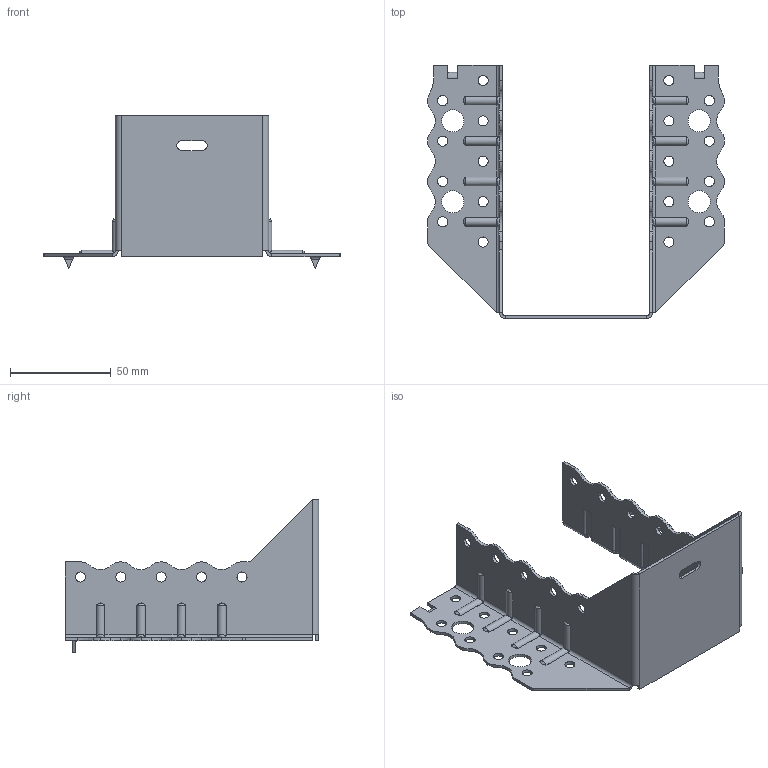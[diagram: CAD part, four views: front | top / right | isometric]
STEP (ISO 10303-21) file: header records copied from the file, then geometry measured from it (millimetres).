
FILE_DESCRIPTION (( 'STEP AP203' ), '1' );
FILE_NAME ('30612TOP.STEP', '2021-04-07T12:45:01', ( '' ), ( '' ), 'SwSTEP 2.0', 'SolidWorks 2013', '' );
FILE_SCHEMA (( 'CONFIG_CONTROL_DESIGN' ));
Length unit declared in the file: millimetre
Products named in the file (1): 30612TOP
Bounding box: 147 x 125.5 x 76 mm (x, y, z)
Volume: 32463.6 mm3; surface area: 46231.5 mm2
Topology: 1 solids, 1 shells, 359 faces, 963 edges, 606 vertices
Faces by surface type: cylinder 221, plane 106, torus 16, bspline 16
Entity records: 13198 total; most frequent: CARTESIAN_POINT 4091, ORIENTED_EDGE 1926, DIRECTION 1865, EDGE_CURVE 963, AXIS2_PLACEMENT_3D 678, VERTEX_POINT 606, VECTOR 509, LINE 509
